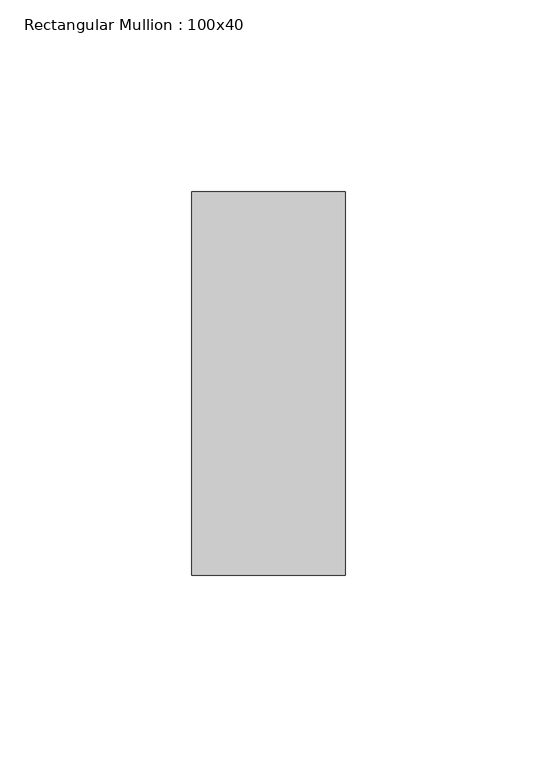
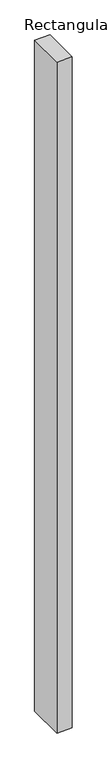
"""IFC4 building model written with IfcOpenShell, lengths in millimetres: member geometry, Rectangular Mullion : 100x40."""

from ifc_helpers import new_model, si_unit, frame, origin, place, context, project, spatial, polyline, outline, extrude, source, transform, mapped, element, save


def rectangular_mullion_100x40_423daf98(model_context):
    return source(origin(), model_context, "Body", "SweptSolid", [
        extrude(outline(polyline([(20.0, 50.0), (20.0, -50.0), (-20.0, -50.0), (-20.0, 50.0), (20.0, 50.0)])), frame((0.0, 0.0, -1844.5549543), z_axis=(0.0, 0.0, 1.0), x_axis=(1.0, 0.0, 0.0)), (0.0, 0.0, 1.0), 1844.5549543),
    ])


if __name__ == "__main__":
    model = new_model("IFC4")
    model_context = context("Model", 3, world=origin())
    ifc_project = project(units=[si_unit("LENGTHUNIT", "METRE", prefix="MILLI")], contexts=[model_context])
    site = spatial("IfcSite", under=ifc_project)
    building = spatial("IfcBuilding", under=site)
    placement = place(None, origin())
    rectangular_mullion_100x40_shape = rectangular_mullion_100x40_423daf98(model_context)
    element("IfcMember", 1, ObjectType="Rectangular Mullion : 100x40", at=placement, inside=building, context=model_context, shape_type="MappedRepresentation", body=[
        mapped(rectangular_mullion_100x40_shape, transform((0.0, 0.0, 0.0), x_axis=(1.0, 0.0, 0.0), y_axis=(0.0, 1.0, 0.0), z_axis=(0.0, 0.0, 1.0))),
    ])
    save(model, "model.ifc")
